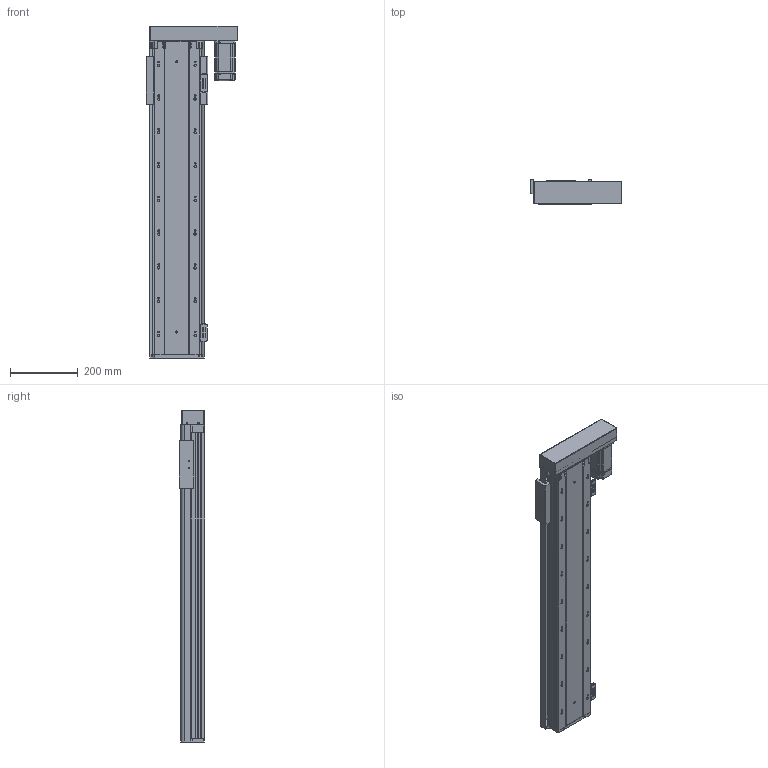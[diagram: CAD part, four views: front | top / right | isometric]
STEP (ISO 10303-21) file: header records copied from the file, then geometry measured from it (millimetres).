
FILE_DESCRIPTION (( 'STEP AP203' ), '1' );
FILE_NAME ('RY140FB-L2010-300-RK.SLDASM_700.step', '2021-02-23T02:41:07', ( '盈信电脑' ), ( '东莞市道滘镇水果街19号' ), 'SwSTEP 2.0', 'SolidWorks 2012', '' );
FILE_SCHEMA (( 'CONFIG_CONTROL_DESIGN' ));
Products named in the file (17): RY140FB-酘衵殏萇儂欶; RY140FB-L2010-300-RK.SLDASM_700; RY140-674嫖萇耀輸; RY140FB-覜茼え; RY140FB-左右折电机安装板; RY140FB-20佪裝臏賑輸; RY140直线电机感应器674光电安装座; 覜茼ん674; RY140FB-300蛌殏奻裔啣-RK_700; RY140FB-转折电机端支撑座(7002); 15; 侂狟400W侜督萇儂; 滅袉蝶18-10; 滅袉蝶18-24; RY140FB-綴裔啣; RY140FB-300蛌殏倰第菁釱-RK_700
Assembly tree (20 placements, depth 3):
  RY140FB-L2010-300-RK.SLDASM_700
    RY140FB-300蛌殏倰第菁釱-RK_700
    RY140FB-綴裔啣
    滅袉蝶18-24  x2
    滅袉蝶18-10
    RY140FB-转折电机端支撑座(7002)
    侂狟400W侜督萇儂
      15
    RY140FB-20佪裝臏賑輸
    RY140FB-300蛌殏奻裔啣-RK_700
    RY140-674嫖萇耀輸
      覜茼ん674
      RY140直线电机感应器674光电安装座
    RY140-674嫖萇耀輸
      覜茼ん674  x2
      RY140直线电机感应器674光电安装座
    RY140FB-覜茼え
    RY140FB-左右折电机安装板
    RY140FB-酘衵殏萇儂欶
Bounding box: 271.3 x 75 x 983.2 mm (x, y, z)
Volume: 3998003.5 mm3; surface area: 1325284.5 mm2
Topology: 17 solids, 17 shells, 1818 faces, 4987 edges, 3169 vertices
Faces by surface type: cylinder 893, plane 723, cone 174, bspline 28
Entity records: 54945 total; most frequent: CARTESIAN_POINT 11109, DIRECTION 8904, ORIENTED_EDGE 8674, EDGE_CURVE 4337, AXIS2_PLACEMENT_3D 3224, VERTEX_POINT 2837, LINE 2456, VECTOR 2456
